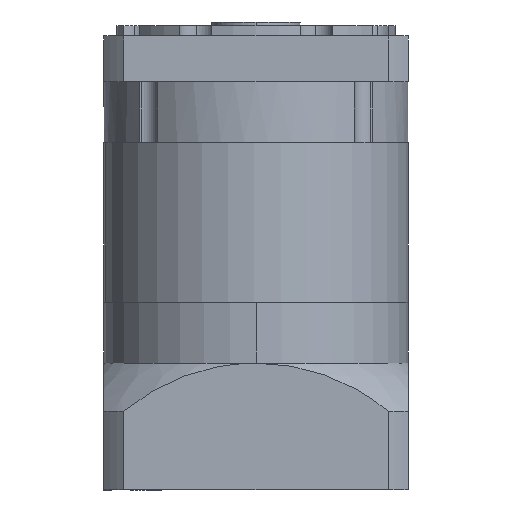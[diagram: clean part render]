
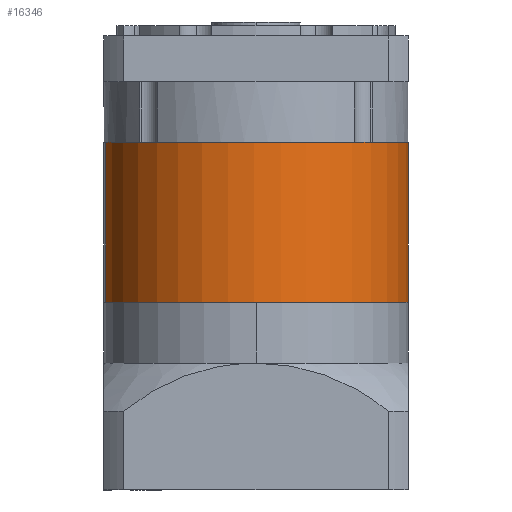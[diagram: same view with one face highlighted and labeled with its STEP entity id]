
A CAD part, left-side view. The second image highlights one B-rep face of the part: STEP entity #16346.
In plain terms, the highlighted cylindrical face has radius 60 mm (diameter 120 mm), a partial arc.
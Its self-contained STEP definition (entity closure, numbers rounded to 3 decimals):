
#2110 = DIRECTION ( 'NONE',  ( 0., 1., 0. ) ) ;
#2150 = CARTESIAN_POINT ( 'NONE',  ( 0., 0., 31.5 ) ) ;
#2413 = DIRECTION ( 'NONE',  ( 0., 1., 0. ) ) ;
#2515 = DIRECTION ( 'NONE',  ( 0., 0., -1. ) ) ;
#3557 = ORIENTED_EDGE ( 'NONE', *, *, #42022, .F. ) ;
#4073 = VECTOR ( 'NONE', #41003, 1000. ) ;
#5735 = DIRECTION ( 'NONE',  ( 0., 0., 1. ) ) ;
#6588 = AXIS2_PLACEMENT_3D ( 'NONE', #27378, #5735, #31012 ) ;
#7132 = CARTESIAN_POINT ( 'NONE',  ( 0., 60., -31.5 ) ) ;
#10034 = VERTEX_POINT ( 'NONE', #14736 ) ;
#13762 = VECTOR ( 'NONE', #37366, 1000. ) ;
#14736 = CARTESIAN_POINT ( 'NONE',  ( 0., -60., -31.5 ) ) ;
#15026 = EDGE_CURVE ( 'NONE', #16782, #10034, #31754, .T. ) ;
#16346 = ADVANCED_FACE ( 'NONE', ( #17110 ), #44548, .T. ) ;
#16782 = VERTEX_POINT ( 'NONE', #46476 ) ;
#17110 = FACE_OUTER_BOUND ( 'NONE', #18809, .T. ) ;
#18809 = EDGE_LOOP ( 'NONE', ( #34859, #45838, #45879, #3557 ) ) ;
#19140 = CIRCLE ( 'NONE', #6588, 60. ) ;
#24131 = DIRECTION ( 'NONE',  ( 0., 0., -1. ) ) ;
#24506 = LINE ( 'NONE', #33748, #4073 ) ;
#24906 = AXIS2_PLACEMENT_3D ( 'NONE', #2150, #2515, #2110 ) ;
#27378 = CARTESIAN_POINT ( 'NONE',  ( 0., 0., -31.5 ) ) ;
#28674 = VERTEX_POINT ( 'NONE', #44088 ) ;
#29181 = CIRCLE ( 'NONE', #40640, 60. ) ;
#31012 = DIRECTION ( 'NONE',  ( 0., 1., 0. ) ) ;
#31754 = LINE ( 'NONE', #37419, #13762 ) ;
#31974 = EDGE_CURVE ( 'NONE', #10034, #42595, #19140, .T. ) ;
#33748 = CARTESIAN_POINT ( 'NONE',  ( 0., 60., 31.5 ) ) ;
#34859 = ORIENTED_EDGE ( 'NONE', *, *, #37271, .T. ) ;
#37271 = EDGE_CURVE ( 'NONE', #28674, #16782, #29181, .T. ) ;
#37366 = DIRECTION ( 'NONE',  ( 0., 0., -1. ) ) ;
#37419 = CARTESIAN_POINT ( 'NONE',  ( 0., -60., 31.5 ) ) ;
#40640 = AXIS2_PLACEMENT_3D ( 'NONE', #45585, #24131, #2413 ) ;
#41003 = DIRECTION ( 'NONE',  ( 0., 0., -1. ) ) ;
#42022 = EDGE_CURVE ( 'NONE', #28674, #42595, #24506, .T. ) ;
#42595 = VERTEX_POINT ( 'NONE', #7132 ) ;
#44088 = CARTESIAN_POINT ( 'NONE',  ( 0., 60., 31.5 ) ) ;
#44548 = CYLINDRICAL_SURFACE ( 'NONE', #24906, 60. ) ;
#45585 = CARTESIAN_POINT ( 'NONE',  ( 0., 0., 31.5 ) ) ;
#45838 = ORIENTED_EDGE ( 'NONE', *, *, #15026, .T. ) ;
#45879 = ORIENTED_EDGE ( 'NONE', *, *, #31974, .T. ) ;
#46476 = CARTESIAN_POINT ( 'NONE',  ( 0., -60., 31.5 ) ) ;
